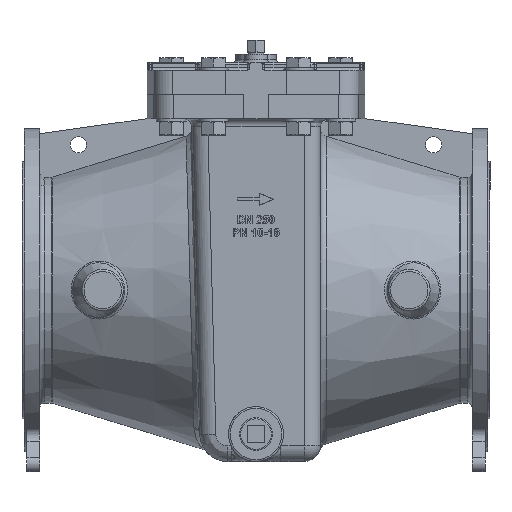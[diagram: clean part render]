
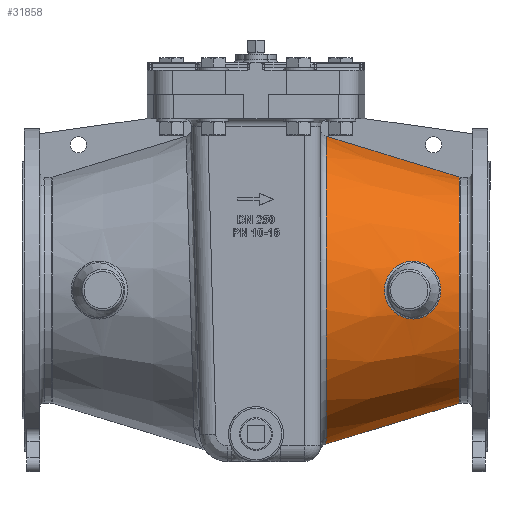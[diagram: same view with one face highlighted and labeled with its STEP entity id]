
A CAD part, front view. The second image highlights one B-rep face of the part: STEP entity #31858.
In plain terms, the highlighted conical face has half-angle 17 degrees and reference radius 140 mm.
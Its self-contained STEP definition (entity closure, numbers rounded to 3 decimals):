
#5590=(
BOUNDED_CURVE()
B_SPLINE_CURVE(2,(#45243,#45244,#45245),.UNSPECIFIED.,.F.,.F.)
B_SPLINE_CURVE_WITH_KNOTS((3,3),(0.,17.368),.UNSPECIFIED.)
CURVE()
GEOMETRIC_REPRESENTATION_ITEM()
RATIONAL_B_SPLINE_CURVE((1.,1.012,1.001))
REPRESENTATION_ITEM($)
);
#5591=(
BOUNDED_CURVE()
B_SPLINE_CURVE(2,(#45258,#45259,#45260),.UNSPECIFIED.,.F.,.F.)
B_SPLINE_CURVE_WITH_KNOTS((3,3),(0.635,18.003),
 .UNSPECIFIED.)
CURVE()
GEOMETRIC_REPRESENTATION_ITEM()
RATIONAL_B_SPLINE_CURVE((1.001,1.012,1.))
REPRESENTATION_ITEM($)
);
#5881=CONICAL_SURFACE($,#33878,140.,17.);
#6023=B_SPLINE_CURVE_WITH_KNOTS($,3,(#45214,#45215,#45216,#45217,#45218,
#45219,#45220,#45221,#45222,#45223,#45224,#45225,#45226,#45227,#45228,#45229,
#45230,#45231,#45232,#45233,#45234),.UNSPECIFIED.,.T.,.F.,(4,1,1,1,1,1,
1,1,1,1,1,1,1,1,1,1,1,1,4),(-20.871,-19.38,-17.889,
-16.895,-15.901,-14.908,-13.914,
-12.92,-11.926,-9.938,-9.442,
-8.945,-7.951,-6.957,-5.963,
-4.472,-2.982,-1.491,0.),.UNSPECIFIED.);
#6024=B_SPLINE_CURVE_WITH_KNOTS($,3,(#45249,#45250,#45251,#45252,#45253,
#45254,#45255),.UNSPECIFIED.,.F.,.F.,(4,1,1,1,4),(-11.223,-8.016,
-4.81,-1.603,0.),.UNSPECIFIED.);
#6687=FACE_OUTER_BOUND($,#9482,.T.);
#8829=FACE_BOUND($,#9483,.T.);
#9482=EDGE_LOOP($,(#20405,#20406,#20407,#20408,#20409,#20410));
#9483=EDGE_LOOP($,(#20411));
#11788=CIRCLE($,#33879,140.262);
#11789=CIRCLE($,#33880,190.728);
#11790=CIRCLE($,#33881,190.728);
#12821=VERTEX_POINT($,#45190);
#12824=VERTEX_POINT($,#45239);
#12825=VERTEX_POINT($,#45240);
#12826=VERTEX_POINT($,#45242);
#12827=VERTEX_POINT($,#45246);
#12828=VERTEX_POINT($,#45248);
#12829=VERTEX_POINT($,#45256);
#15823=EDGE_CURVE($,#12821,#12821,#6023,.T.);
#15825=EDGE_CURVE($,#12824,#12825,#11788,.T.);
#15826=EDGE_CURVE($,#12824,#12826,#5590,.T.);
#15827=EDGE_CURVE($,#12827,#12826,#11789,.T.);
#15828=EDGE_CURVE($,#12828,#12827,#6024,.T.);
#15829=EDGE_CURVE($,#12829,#12828,#11790,.T.);
#15830=EDGE_CURVE($,#12829,#12825,#5591,.T.);
#20405=ORIENTED_EDGE($,*,*,#15825,.F.);
#20406=ORIENTED_EDGE($,*,*,#15826,.T.);
#20407=ORIENTED_EDGE($,*,*,#15827,.F.);
#20408=ORIENTED_EDGE($,*,*,#15828,.F.);
#20409=ORIENTED_EDGE($,*,*,#15829,.F.);
#20410=ORIENTED_EDGE($,*,*,#15830,.T.);
#20411=ORIENTED_EDGE($,*,*,#15823,.F.);
#31858=ADVANCED_FACE($,(#6687,#8829),#5881,.T.);
#33878=AXIS2_PLACEMENT_3D($,#45238,#36793,#36794);
#33879=AXIS2_PLACEMENT_3D($,#45241,#36795,#36796);
#33880=AXIS2_PLACEMENT_3D($,#45247,#36797,#36798);
#33881=AXIS2_PLACEMENT_3D($,#45257,#36799,#36800);
#36793=DIRECTION('center_axis',(-1.,0.,0.));
#36794=DIRECTION('ref_axis',(0.,1.,0.));
#36795=DIRECTION('center_axis',(1.,0.,0.));
#36796=DIRECTION('ref_axis',(0.,0.,
-1.));
#36797=DIRECTION('center_axis',(-1.,0.,0.));
#36798=DIRECTION('ref_axis',(0.,-1.,
0.011));
#36799=DIRECTION('center_axis',(-1.,0.,0.));
#36800=DIRECTION('ref_axis',(0.,1.,0.011));
#45190=CARTESIAN_POINT('',(199.603,-152.246,-207.023));
#45214=CARTESIAN_POINT('Ctrl Pts',(199.601,-152.244,-207.019));
#45215=CARTESIAN_POINT('Ctrl Pts',(194.384,-153.693,-206.211));
#45216=CARTESIAN_POINT('Ctrl Pts',(183.772,-157.275,-207.16));
#45217=CARTESIAN_POINT('Ctrl Pts',(171.764,-162.471,-214.133));
#45218=CARTESIAN_POINT('Ctrl Pts',(163.984,-166.226,-223.56));
#45219=CARTESIAN_POINT('Ctrl Pts',(159.808,-168.359,-233.436));
#45220=CARTESIAN_POINT('Ctrl Pts',(158.7,-168.94,-244.296));
#45221=CARTESIAN_POINT('Ctrl Pts',(160.859,-167.812,-254.95));
#45222=CARTESIAN_POINT('Ctrl Pts',(165.926,-165.267,-264.31));
#45223=CARTESIAN_POINT('Ctrl Pts',(175.702,-160.659,-274.145));
#45224=CARTESIAN_POINT('Ctrl Pts',(187.286,-155.974,-278.55));
#45225=CARTESIAN_POINT('Ctrl Pts',(197.8,-152.728,-278.342));
#45226=CARTESIAN_POINT('Ctrl Pts',(204.765,-150.828,-277.106));
#45227=CARTESIAN_POINT('Ctrl Pts',(213.071,-149.059,-273.459));
#45228=CARTESIAN_POINT('Ctrl Pts',(221.217,-147.916,-266.13));
#45229=CARTESIAN_POINT('Ctrl Pts',(227.685,-147.381,-255.15));
#45230=CARTESIAN_POINT('Ctrl Pts',(230.115,-147.298,-240.689));
#45231=CARTESIAN_POINT('Ctrl Pts',(225.875,-147.471,-224.74));
#45232=CARTESIAN_POINT('Ctrl Pts',(215.075,-148.583,-212.007));
#45233=CARTESIAN_POINT('Ctrl Pts',(204.818,-150.795,-207.827));
#45234=CARTESIAN_POINT('Ctrl Pts',(199.601,-152.244,-207.019));
#45238=CARTESIAN_POINT('Origin',(253.,0.,-242.5));
#45239=CARTESIAN_POINT('',(252.142,-8.,-102.466));
#45240=CARTESIAN_POINT('',(252.142,8.,-102.466));
#45241=CARTESIAN_POINT('Origin',(252.142,0.,
-242.5));
#45242=CARTESIAN_POINT('',(87.076,-8.,-51.94));
#45243=CARTESIAN_POINT('Ctrl Pts',(252.142,-8.,-102.466));
#45244=CARTESIAN_POINT('Ctrl Pts',(182.223,-8.,-81.055));
#45245=CARTESIAN_POINT('Ctrl Pts',(87.076,-8.,-51.94));
#45246=CARTESIAN_POINT('',(87.076,-52.678,-425.809));
#45247=CARTESIAN_POINT('Origin',(87.076,0.,
-242.5));
#45248=CARTESIAN_POINT('',(87.076,52.678,-425.809));
#45249=CARTESIAN_POINT('Ctrl Pts',(87.076,52.678,-425.809));
#45250=CARTESIAN_POINT('Ctrl Pts',(87.076,42.896,-428.62));
#45251=CARTESIAN_POINT('Ctrl Pts',(86.21,22.955,-432.93));
#45252=CARTESIAN_POINT('Ctrl Pts',(85.701,-7.676,-434.311));
#45253=CARTESIAN_POINT('Ctrl Pts',(86.746,-32.98,-430.94));
#45254=CARTESIAN_POINT('Ctrl Pts',(87.076,-47.787,-427.214));
#45255=CARTESIAN_POINT('Ctrl Pts',(87.076,-52.678,-425.809));
#45256=CARTESIAN_POINT('',(87.076,8.,-51.94));
#45257=CARTESIAN_POINT('Origin',(87.076,0.,
-242.5));
#45258=CARTESIAN_POINT('Ctrl Pts',(87.076,8.,-51.94));
#45259=CARTESIAN_POINT('Ctrl Pts',(182.223,8.,-81.055));
#45260=CARTESIAN_POINT('Ctrl Pts',(252.142,8.,-102.466));
